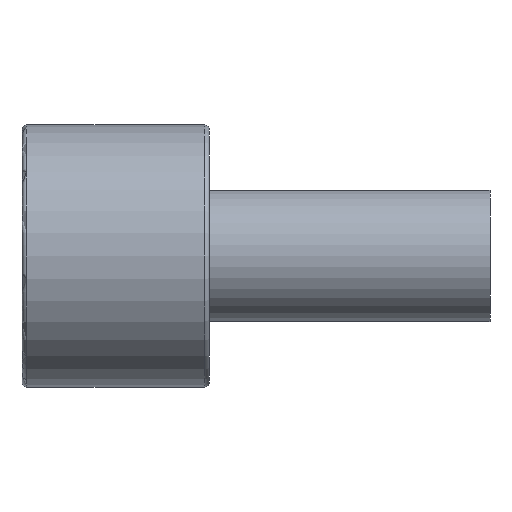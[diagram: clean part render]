
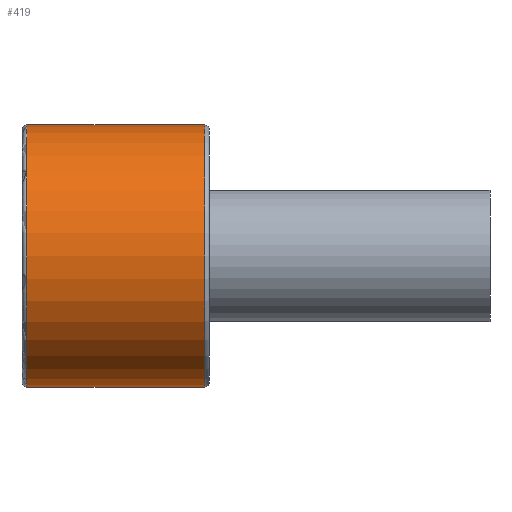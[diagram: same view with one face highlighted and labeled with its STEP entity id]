
A CAD part, front view. The second image highlights one B-rep face of the part: STEP entity #419.
In plain terms, the highlighted cylindrical face has radius 14 mm (diameter 28 mm), a partial arc.
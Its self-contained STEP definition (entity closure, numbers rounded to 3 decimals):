
#231=CARTESIAN_POINT('Vertex',(0.5,0.,14.)) ;
#245=CARTESIAN_POINT('Vertex',(0.5,0.,-14.)) ;
#267=CARTESIAN_POINT('Axis2P3D Location',(0.5,0.,0.)) ;
#271=CARTESIAN_POINT('Vertex',(0.5,-14.,0.)) ;
#274=CARTESIAN_POINT('Axis2P3D Location',(0.5,0.,0.)) ;
#359=CARTESIAN_POINT('Line Origine',(50.,0.,14.)) ;
#363=CARTESIAN_POINT('Vertex',(19.5,0.,14.)) ;
#377=CARTESIAN_POINT('Vertex',(19.5,0.,-14.)) ;
#380=CARTESIAN_POINT('Line Origine',(50.,0.,-14.)) ;
#394=CARTESIAN_POINT('Axis2P3D Location',(50.,0.,0.)) ;
#399=CARTESIAN_POINT('Axis2P3D Location',(19.5,0.,0.)) ;
#403=CARTESIAN_POINT('Vertex',(19.5,-14.,0.)) ;
#406=CARTESIAN_POINT('Axis2P3D Location',(19.5,0.,0.)) ;
#268=DIRECTION('Axis2P3D Direction',(1.,0.,-0.)) ;
#275=DIRECTION('Axis2P3D Direction',(1.,0.,-0.)) ;
#360=DIRECTION('Vector Direction',(-1.,0.,0.)) ;
#381=DIRECTION('Vector Direction',(-1.,0.,0.)) ;
#395=DIRECTION('Axis2P3D Direction',(-1.,-0.,-0.)) ;
#396=DIRECTION('Axis2P3D XDirection',(0.,0.,-1.)) ;
#400=DIRECTION('Axis2P3D Direction',(-1.,-0.,-0.)) ;
#407=DIRECTION('Axis2P3D Direction',(-1.,-0.,-0.)) ;
#269=AXIS2_PLACEMENT_3D('Circle Axis2P3D',#267,#268,$) ;
#276=AXIS2_PLACEMENT_3D('Circle Axis2P3D',#274,#275,$) ;
#397=AXIS2_PLACEMENT_3D('Cylinder Axis2P3D',#394,#395,#396) ;
#401=AXIS2_PLACEMENT_3D('Circle Axis2P3D',#399,#400,$) ;
#408=AXIS2_PLACEMENT_3D('Circle Axis2P3D',#406,#407,$) ;
#412=ORIENTED_EDGE('',*,*,#384,.T.) ;
#413=ORIENTED_EDGE('',*,*,#405,.F.) ;
#414=ORIENTED_EDGE('',*,*,#410,.F.) ;
#415=ORIENTED_EDGE('',*,*,#365,.T.) ;
#416=ORIENTED_EDGE('',*,*,#278,.T.) ;
#417=ORIENTED_EDGE('',*,*,#273,.T.) ;
#361=VECTOR('Line Direction',#360,1.) ;
#382=VECTOR('Line Direction',#381,1.) ;
#419=ADVANCED_FACE('367F-14X50',(#418),#398,.T.) ;
#270=CIRCLE('generated circle',#269,14.) ;
#277=CIRCLE('generated circle',#276,14.) ;
#402=CIRCLE('generated circle',#401,14.) ;
#409=CIRCLE('generated circle',#408,14.) ;
#398=CYLINDRICAL_SURFACE('generated cylinder',#397,14.) ;
#273=EDGE_CURVE('',#272,#246,#270,.T.) ;
#278=EDGE_CURVE('',#232,#272,#277,.T.) ;
#365=EDGE_CURVE('',#364,#232,#362,.T.) ;
#384=EDGE_CURVE('',#246,#378,#383,.F.) ;
#405=EDGE_CURVE('',#404,#378,#402,.F.) ;
#410=EDGE_CURVE('',#364,#404,#409,.F.) ;
#411=EDGE_LOOP('',(#412,#413,#414,#415,#416,#417)) ;
#418=FACE_OUTER_BOUND('',#411,.T.) ;
#362=LINE('Line',#359,#361) ;
#383=LINE('Line',#380,#382) ;
#232=VERTEX_POINT('',#231) ;
#246=VERTEX_POINT('',#245) ;
#272=VERTEX_POINT('',#271) ;
#364=VERTEX_POINT('',#363) ;
#378=VERTEX_POINT('',#377) ;
#404=VERTEX_POINT('',#403) ;
